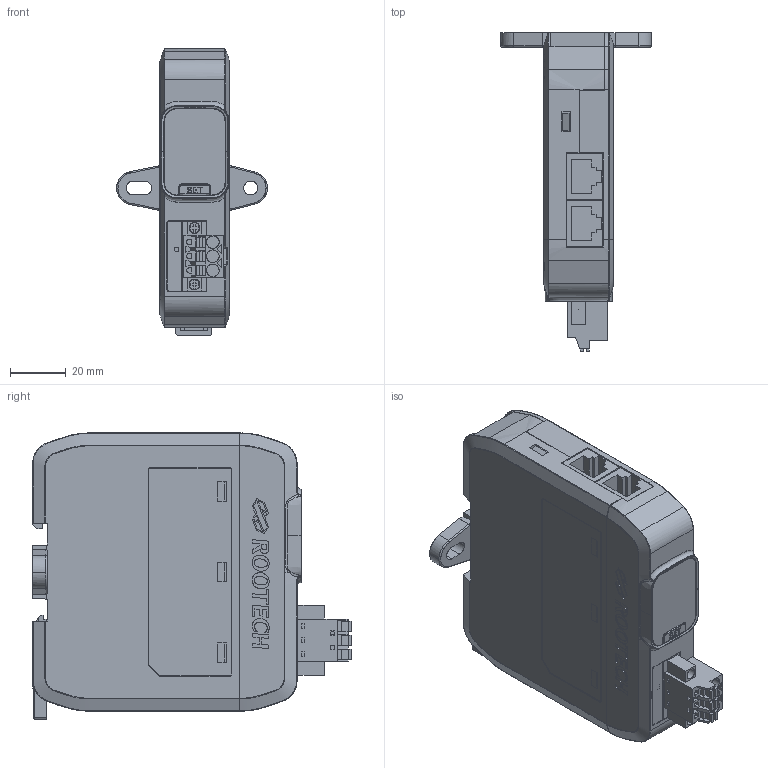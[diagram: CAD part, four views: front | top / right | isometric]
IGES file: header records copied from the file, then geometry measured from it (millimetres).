
Global section: file name: \\10.10.10.23\16_; native system: Rhinoceros ( May 22 2017 ); preprocessor: Trout Lake IGES 012 May 22 2017; date: 221206.052531; units: millimetre
Bounding box: 54.2 x 114.48 x 102.84 mm (x, y, z)
Surface area: 111439 mm2 (no closed solid volume)
Topology: 0 solids, 0 shells, 4835 faces, 31169 edges, 31158 vertices
Faces by surface type: bspline 4835
